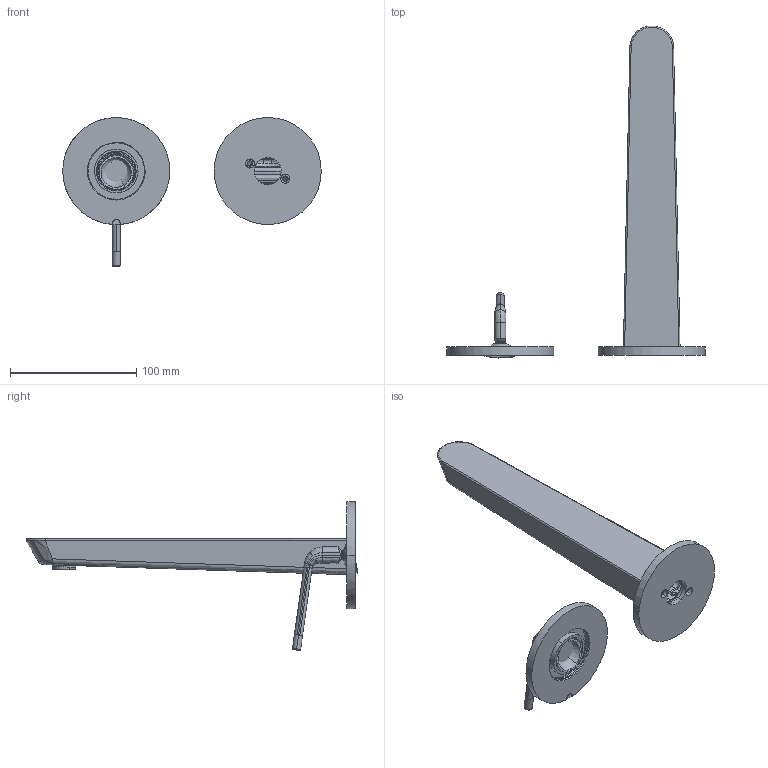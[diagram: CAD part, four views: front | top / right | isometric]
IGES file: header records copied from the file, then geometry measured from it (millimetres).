
Start section: START RECORD GO HERE.
Global section: file name: 68430.igs; native system: DASSAULT SYSTEMES CATIA V5 R20 - www.3ds.com; preprocessor: CATIA Version 5 Release 20 SP 5 ; author: prog02; organization: NEWFORMSPA; date: 20170510.114201; units: millimetre
Bounding box: 204.8 x 262.98 x 117.97 mm (x, y, z)
Volume: 172866.2 mm3; surface area: 90220.6 mm2
Topology: 11 solids, 11 shells, 507 faces, 1176 edges, 704 vertices
Faces by surface type: revolution 186, plane 182, bspline 137, extrusion 2
